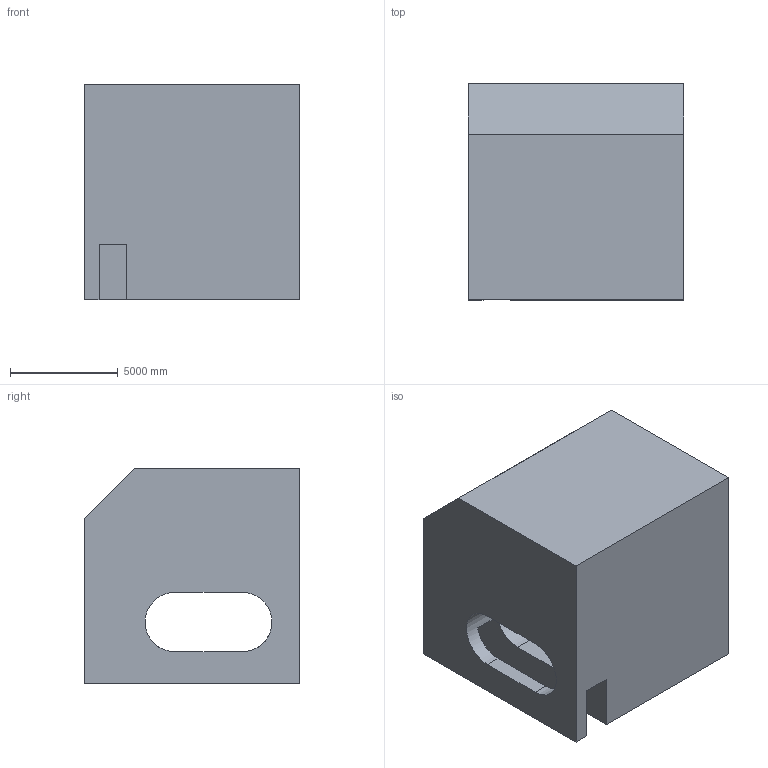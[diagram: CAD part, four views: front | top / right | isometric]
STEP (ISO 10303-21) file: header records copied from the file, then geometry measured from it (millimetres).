
FILE_DESCRIPTION (( 'STEP AP203' ), '1' );
FILE_NAME ('1274.STEP', '2022-08-18T13:30:39', ( 'user' ), ( '' ), 'SwSTEP 2.0', 'SolidWorks 2021', '' );
FILE_SCHEMA (( 'CONFIG_CONTROL_DESIGN' ));
Length unit declared in the file: centimetre
Products named in the file (1): 1274
Bounding box: 10000 x 10000 x 10000 mm (x, y, z)
Volume: 805362955896.4 mm3; surface area: 719270534.1 mm2
Topology: 1 solids, 1 shells, 17 faces, 51 edges, 34 vertices
Faces by surface type: plane 15, cylinder 2
Entity records: 658 total; most frequent: CARTESIAN_POINT 103, ORIENTED_EDGE 102, DIRECTION 95, EDGE_CURVE 51, VECTOR 43, LINE 43, VERTEX_POINT 34, AXIS2_PLACEMENT_3D 26
